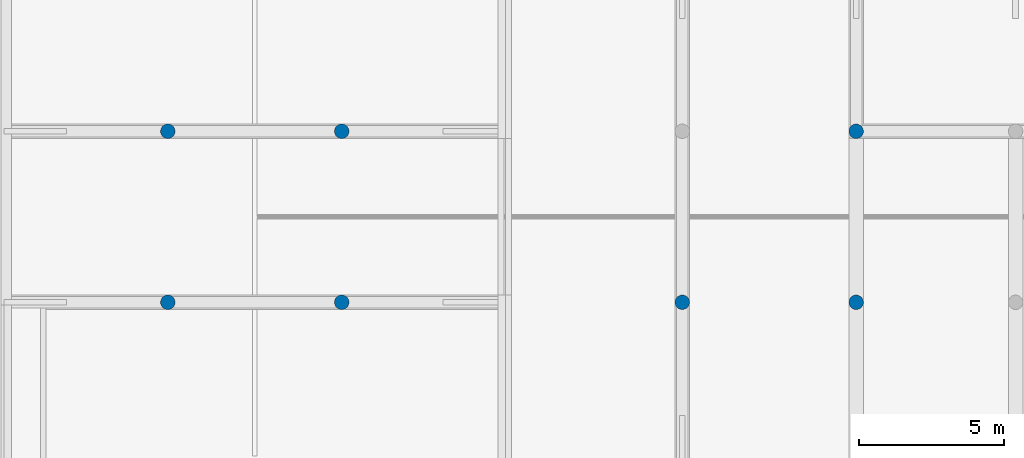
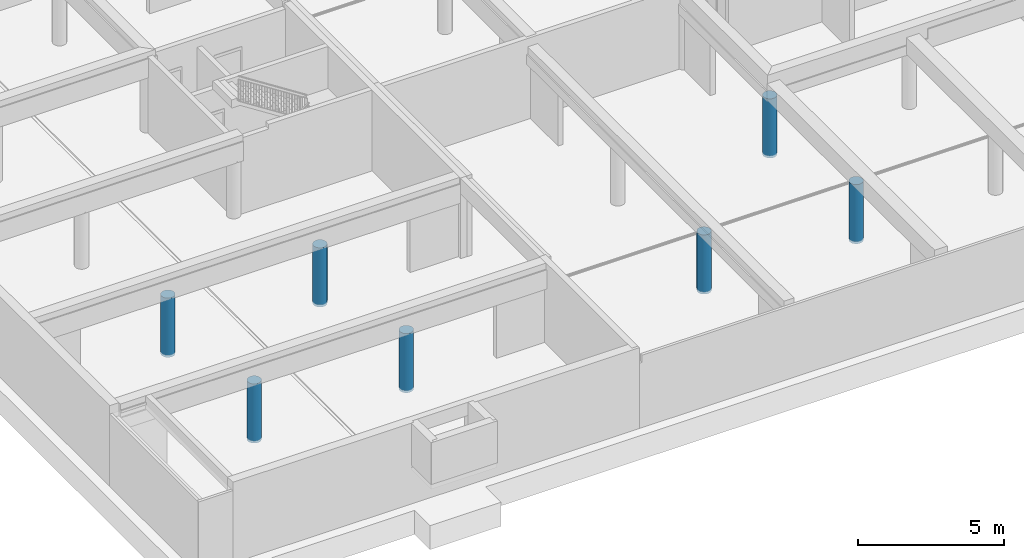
# One storey, part 1 of 25: 7 columns.
"""IFC2X3 building model written with IfcOpenShell, lengths in millimetres."""

from ifc_helpers import new_model, entity, si_unit, converted_unit, derived_unit, money_unit, direction, frame, origin_with_axes, place, context, subcontext, project, spatial, faceted_brep, material, type_object, element, save


model = new_model("IFC2X3")

# Units and contexts
model_context = context("Model", 3, precision=0.01, world=origin_with_axes(), true_north=direction((0.34421633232, 0.938890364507)))
body_context = subcontext(model_context, "Body", "Model", "MODEL_VIEW")
ifc_project = project(units=[si_unit("LENGTHUNIT", "METRE", prefix="MILLI"), si_unit("AREAUNIT", "SQUARE_METRE"), si_unit("VOLUMEUNIT", "CUBIC_METRE"), converted_unit("PLANEANGLEUNIT", "DEGREE", entity("IfcPlaneAngleMeasure", 0.0174532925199), si_unit("PLANEANGLEUNIT", "RADIAN"), dimensions=[0, 0, 0, 0, 0, 0, 0]), si_unit("SOLIDANGLEUNIT", "STERADIAN"), money_unit("USD"), converted_unit("TIMEUNIT", "Year", entity("IfcTimeMeasure", 31556926.0), si_unit("TIMEUNIT", "SECOND"), dimensions=[0, 0, 1, 0, 0, 0, 0]), si_unit("MASSUNIT", "GRAM", prefix="KILO"), si_unit("THERMODYNAMICTEMPERATUREUNIT", "DEGREE_CELSIUS"), si_unit("LUMINOUSINTENSITYUNIT", "LUMEN"), si_unit("ENERGYUNIT", "JOULE", prefix="MEGA"), derived_unit("THERMALCONDUCTANCEUNIT", [(si_unit("POWERUNIT", "WATT"), 1), (si_unit("LENGTHUNIT", "METRE"), -1), (si_unit("THERMODYNAMICTEMPERATUREUNIT", "KELVIN"), -1)]), derived_unit("SPECIFICHEATCAPACITYUNIT", [(si_unit("ENERGYUNIT", "JOULE"), 1), (si_unit("MASSUNIT", "GRAM", prefix="KILO"), -1), (si_unit("THERMODYNAMICTEMPERATUREUNIT", "KELVIN"), -1)]), derived_unit("MASSDENSITYUNIT", [(si_unit("MASSUNIT", "GRAM", prefix="KILO"), 1), (si_unit("VOLUMEUNIT", "CUBIC_METRE"), -1)])], contexts=[model_context])

# Site, building, storey
site_placement = place(None, origin_with_axes())
site = spatial("IfcSite", under=ifc_project, at=site_placement, Name="USTRONIE MORSKIE", CompositionType="ELEMENT")
building_placement = place(site_placement, origin_with_axes())
building = spatial("IfcBuilding", under=site, at=building_placement, Name="Budynek", CompositionType="ELEMENT")
storey_placement = place(building_placement, frame((0.0, 0.0, -3600.0), z_axis=(0.0, 0.0, 1.0), x_axis=(1.0, 0.0, 0.0)))
storey = spatial("IfcBuildingStorey", under=building, at=storey_placement, Name="GARAZ", CompositionType="ELEMENT", Elevation=-3600.0)

# Columns
ifc_material = material(Name="Beton konstrukcyjny 01")
column_type = type_object("IfcColumnType", Name="Beton konstrukcyjny 01 D500", PredefinedType="NOTDEFINED")
column_1_placement = place(storey_placement, frame((355567.920919, 715101.199036, -100.0), z_axis=(0.0, 0.0, 1.0), x_axis=(1.0, 0.0, 0.0)))
element("IfcColumn", 1, at=column_1_placement, inside=storey, type_object=column_type, material=ifc_material, Name="S1", context=body_context, shape_type="Brep", body=[
    faceted_brep([(-250.0, 0.0, 2470.00030619), (-250.0, 0.0, 0.0), (-246.201938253, -43.4120444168, 0.0), (-246.201938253, -43.4120444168, 2470.00030619), (-246.201938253, 43.4120444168, 2470.00030619), (-246.201938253, 43.4120444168, 0.0), (-234.923155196, 85.5050358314, 0.0), (-216.506350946, 125.0, 0.0), (-191.51111078, 160.696902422, 0.0), (-160.696902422, 191.51111078, 0.0), (-125.0, 216.506350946, 0.0), (-85.5050358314, 234.923155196, 0.0), (-43.4120444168, 246.201938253, 0.0), (0.0, 250.0, 0.0), (43.4120444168, 246.201938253, 0.0), (85.5050358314, 234.923155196, 0.0), (125.0, 216.506350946, 0.0), (160.696902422, 191.51111078, 0.0), (191.51111078, 160.696902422, 0.0), (216.506350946, 125.0, 0.0), (234.923155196, 85.5050358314, 0.0), (246.201938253, 43.4120444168, 0.0), (250.0, 0.0, 0.0), (246.201938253, -43.4120444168, 0.0), (234.923155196, -85.5050358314, 0.0), (216.506350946, -125.0, 0.0), (191.51111078, -160.696902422, 0.0), (160.696902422, -191.51111078, 0.0), (125.0, -216.506350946, 0.0), (85.5050358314, -234.923155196, 0.0), (43.4120444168, -246.201938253, 0.0), (0.0, -250.0, 0.0), (-43.4120444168, -246.201938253, 0.0), (-85.5050358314, -234.923155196, 0.0), (-125.0, -216.506350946, 0.0), (-160.696902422, -191.51111078, 0.0), (-191.51111078, -160.696902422, 0.0), (-216.506350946, -125.0, 0.0), (-234.923155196, -85.5050358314, 0.0), (-234.923155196, -85.5050358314, 2470.00030619), (-216.506350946, -125.0, 2470.00030619), (-191.51111078, -160.696902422, 2470.00030619), (-160.696902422, -191.51111078, 2470.00030619), (-125.0, -216.506350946, 2470.00030619), (-85.5050358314, -234.923155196, 2470.00030619), (-43.4120444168, -246.201938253, 2470.00030619), (0.0, -250.0, 2470.00030619), (43.4120444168, -246.201938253, 2470.00030619), (85.5050358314, -234.923155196, 2470.00030619), (125.0, -216.506350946, 2470.00030619), (160.696902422, -191.51111078, 2470.00030619), (191.51111078, -160.696902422, 2470.00030619), (216.506350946, -125.0, 2470.00030619), (234.923155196, -85.5050358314, 2470.00030619), (246.201938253, -43.4120444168, 2470.00030619), (250.0, 0.0, 2470.00030619), (246.201938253, 43.4120444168, 2470.00030619), (234.923155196, 85.5050358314, 2470.00030619), (216.506350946, 125.0, 2470.00030619), (191.51111078, 160.696902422, 2470.00030619), (160.696902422, 191.51111078, 2470.00030619), (125.0, 216.506350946, 2470.00030619), (85.5050358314, 234.923155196, 2470.00030619), (43.4120444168, 246.201938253, 2470.00030619), (0.0, 250.0, 2470.00030619), (-43.4120444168, 246.201938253, 2470.00030619), (-85.5050358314, 234.923155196, 2470.00030619), (-125.0, 216.506350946, 2470.00030619), (-160.696902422, 191.51111078, 2470.00030619), (-191.51111078, 160.696902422, 2470.00030619), (-216.506350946, 125.0, 2470.00030619), (-234.923155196, 85.5050358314, 2470.00030619)], [[[0, 1, 2, 3]], [[4, 5, 1, 0]], [[2, 1, 5, 6, 7, 8, 9, 10, 11, 12, 13, 14, 15, 16, 17, 18, 19, 20, 21, 22, 23, 24, 25, 26, 27, 28, 29, 30, 31, 32, 33, 34, 35, 36, 37, 38]], [[3, 2, 38, 39]], [[4, 0, 3, 39, 40, 41, 42, 43, 44, 45, 46, 47, 48, 49, 50, 51, 52, 53, 54, 55, 56, 57, 58, 59, 60, 61, 62, 63, 64, 65, 66, 67, 68, 69, 70, 71]], [[71, 6, 5, 4]], [[70, 7, 6, 71]], [[69, 8, 7, 70]], [[68, 9, 8, 69]], [[67, 10, 9, 68]], [[66, 11, 10, 67]], [[65, 12, 11, 66]], [[64, 13, 12, 65]], [[63, 14, 13, 64]], [[62, 15, 14, 63]], [[61, 16, 15, 62]], [[60, 17, 16, 61]], [[59, 18, 17, 60]], [[58, 19, 18, 59]], [[57, 20, 19, 58]], [[56, 21, 20, 57]], [[55, 22, 21, 56]], [[54, 23, 22, 55]], [[53, 24, 23, 54]], [[52, 25, 24, 53]], [[51, 26, 25, 52]], [[50, 27, 26, 51]], [[49, 28, 27, 50]], [[48, 29, 28, 49]], [[47, 30, 29, 48]], [[46, 31, 30, 47]], [[45, 32, 31, 46]], [[44, 33, 32, 45]], [[43, 34, 33, 44]], [[42, 35, 34, 43]], [[41, 36, 35, 42]], [[40, 37, 36, 41]], [[39, 38, 37, 40]]]),
])
column_2_placement = place(storey_placement, frame((361567.920919, 721001.199036, -100.0), z_axis=(0.0, 0.0, 1.0), x_axis=(1.0, 0.0, 0.0)))
element("IfcColumn", 2, at=column_2_placement, inside=storey, type_object=column_type, material=ifc_material, Name="S1", context=body_context, shape_type="Brep", body=[
    faceted_brep([(246.216710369, 43.4146491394, 2470.00030619), (246.216710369, 43.4146491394, 0.0), (234.937250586, 85.5101661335, 0.0), (234.937250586, 85.5101661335, 2470.00030619), (250.015, 0.0, 2470.00030619), (250.015, 0.0, 0.0), (246.216710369, -43.4146491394, 0.0), (234.937250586, -85.5101661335, 0.0), (216.519341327, -125.0075, 0.0), (191.522601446, -160.706544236, 0.0), (160.706544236, -191.522601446, 0.0), (125.0075, -216.519341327, 0.0), (85.5101661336, -234.937250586, 0.0), (43.4146491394, -246.216710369, 0.0), (0.0, -250.015, 0.0), (-43.4146491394, -246.216710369, 0.0), (-85.5101661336, -234.937250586, 0.0), (-125.0075, -216.519341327, 0.0), (-160.706544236, -191.522601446, 0.0), (-191.522601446, -160.706544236, 0.0), (-216.519341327, -125.0075, 0.0), (-234.937250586, -85.5101661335, 0.0), (-246.216710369, -43.4146491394, 0.0), (-250.015, 0.0, 0.0), (-246.216710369, 43.4146491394, 0.0), (-234.937250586, 85.5101661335, 0.0), (-216.519341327, 125.0075, 0.0), (-191.522601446, 160.706544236, 0.0), (-160.706544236, 191.522601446, 0.0), (-125.0075, 216.519341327, 0.0), (-85.5101661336, 234.937250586, 0.0), (-43.4146491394, 246.216710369, 0.0), (0.0, 250.015, 0.0), (43.4146491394, 246.216710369, 0.0), (85.5101661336, 234.937250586, 0.0), (125.0075, 216.519341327, 0.0), (160.706544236, 191.522601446, 0.0), (191.522601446, 160.706544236, 0.0), (216.519341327, 125.0075, 0.0), (216.519341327, 125.0075, 2470.00030619), (191.522601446, 160.706544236, 2470.00030619), (160.706544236, 191.522601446, 2470.00030619), (125.0075, 216.519341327, 2470.00030619), (85.5101661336, 234.937250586, 2470.00030619), (43.4146491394, 246.216710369, 2470.00030619), (0.0, 250.015, 2470.00030619), (-43.4146491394, 246.216710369, 2470.00030619), (-85.5101661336, 234.937250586, 2470.00030619), (-125.0075, 216.519341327, 2470.00030619), (-160.706544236, 191.522601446, 2470.00030619), (-191.522601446, 160.706544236, 2470.00030619), (-216.519341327, 125.0075, 2470.00030619), (-234.937250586, 85.5101661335, 2470.00030619), (-246.216710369, 43.4146491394, 2470.00030619), (-250.015, 0.0, 2470.00030619), (-246.216710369, -43.4146491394, 2470.00030619), (-234.937250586, -85.5101661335, 2470.00030619), (-216.519341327, -125.0075, 2470.00030619), (-191.522601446, -160.706544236, 2470.00030619), (-160.706544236, -191.522601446, 2470.00030619), (-125.0075, -216.519341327, 2470.00030619), (-85.5101661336, -234.937250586, 2470.00030619), (-43.4146491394, -246.216710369, 2470.00030619), (0.0, -250.015, 2470.00030619), (43.4146491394, -246.216710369, 2470.00030619), (85.5101661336, -234.937250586, 2470.00030619), (125.0075, -216.519341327, 2470.00030619), (160.706544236, -191.522601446, 2470.00030619), (191.522601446, -160.706544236, 2470.00030619), (216.519341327, -125.0075, 2470.00030619), (234.937250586, -85.5101661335, 2470.00030619), (246.216710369, -43.4146491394, 2470.00030619)], [[[0, 1, 2, 3]], [[4, 5, 1, 0]], [[2, 1, 5, 6, 7, 8, 9, 10, 11, 12, 13, 14, 15, 16, 17, 18, 19, 20, 21, 22, 23, 24, 25, 26, 27, 28, 29, 30, 31, 32, 33, 34, 35, 36, 37, 38]], [[3, 2, 38, 39]], [[4, 0, 3, 39, 40, 41, 42, 43, 44, 45, 46, 47, 48, 49, 50, 51, 52, 53, 54, 55, 56, 57, 58, 59, 60, 61, 62, 63, 64, 65, 66, 67, 68, 69, 70, 71]], [[71, 6, 5, 4]], [[70, 7, 6, 71]], [[69, 8, 7, 70]], [[68, 9, 8, 69]], [[67, 10, 9, 68]], [[66, 11, 10, 67]], [[65, 12, 11, 66]], [[64, 13, 12, 65]], [[63, 14, 13, 64]], [[62, 15, 14, 63]], [[61, 16, 15, 62]], [[60, 17, 16, 61]], [[59, 18, 17, 60]], [[58, 19, 18, 59]], [[57, 20, 19, 58]], [[56, 21, 20, 57]], [[55, 22, 21, 56]], [[54, 23, 22, 55]], [[53, 24, 23, 54]], [[52, 25, 24, 53]], [[51, 26, 25, 52]], [[50, 27, 26, 51]], [[49, 28, 27, 50]], [[48, 29, 28, 49]], [[47, 30, 29, 48]], [[46, 31, 30, 47]], [[45, 32, 31, 46]], [[44, 33, 32, 45]], [[43, 34, 33, 44]], [[42, 35, 34, 43]], [[41, 36, 35, 42]], [[40, 37, 36, 41]], [[39, 38, 37, 40]]]),
])
column_3_placement = place(storey_placement, frame((373317.920919, 715101.199036, -100.0), z_axis=(0.0, 0.0, 1.0), x_axis=(0.0, 1.0, 0.0)))
element("IfcColumn", 3, at=column_3_placement, inside=storey, type_object=column_type, material=ifc_material, Name="S1", context=body_context, shape_type="Brep", body=[
    faceted_brep([(-250.0, 0.0, 2470.00030619), (-250.0, 0.0, 0.0), (-246.201938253, -43.4120444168, 0.0), (-246.201938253, -43.4120444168, 2470.00030619), (-246.201938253, 43.4120444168, 2470.00030619), (-246.201938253, 43.4120444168, 0.0), (-234.923155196, 85.5050358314, 0.0), (-216.506350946, 125.0, 0.0), (-191.51111078, 160.696902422, 0.0), (-160.696902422, 191.51111078, 0.0), (-125.0, 216.506350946, 0.0), (-85.5050358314, 234.923155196, 0.0), (-43.4120444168, 246.201938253, 0.0), (0.0, 250.0, 0.0), (43.4120444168, 246.201938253, 0.0), (85.5050358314, 234.923155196, 0.0), (125.0, 216.506350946, 0.0), (160.696902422, 191.51111078, 0.0), (191.51111078, 160.696902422, 0.0), (216.506350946, 125.0, 0.0), (234.923155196, 85.5050358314, 0.0), (246.201938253, 43.4120444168, 0.0), (250.0, 0.0, 0.0), (246.201938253, -43.4120444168, 0.0), (234.923155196, -85.5050358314, 0.0), (216.506350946, -125.0, 0.0), (191.51111078, -160.696902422, 0.0), (160.696902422, -191.51111078, 0.0), (125.0, -216.506350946, 0.0), (85.5050358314, -234.923155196, 0.0), (43.4120444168, -246.201938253, 0.0), (0.0, -250.0, 0.0), (-43.4120444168, -246.201938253, 0.0), (-85.5050358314, -234.923155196, 0.0), (-125.0, -216.506350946, 0.0), (-160.696902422, -191.51111078, 0.0), (-191.51111078, -160.696902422, 0.0), (-216.506350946, -125.0, 0.0), (-234.923155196, -85.5050358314, 0.0), (-234.923155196, -85.5050358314, 2470.00030619), (-216.506350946, -125.0, 2470.00030619), (-191.51111078, -160.696902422, 2470.00030619), (-160.696902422, -191.51111078, 2470.00030619), (-125.0, -216.506350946, 2470.00030619), (-85.5050358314, -234.923155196, 2470.00030619), (-43.4120444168, -246.201938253, 2470.00030619), (0.0, -250.0, 2470.00030619), (43.4120444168, -246.201938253, 2470.00030619), (85.5050358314, -234.923155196, 2470.00030619), (125.0, -216.506350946, 2470.00030619), (160.696902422, -191.51111078, 2470.00030619), (191.51111078, -160.696902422, 2470.00030619), (216.506350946, -125.0, 2470.00030619), (234.923155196, -85.5050358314, 2470.00030619), (246.201938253, -43.4120444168, 2470.00030619), (250.0, 0.0, 2470.00030619), (246.201938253, 43.4120444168, 2470.00030619), (234.923155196, 85.5050358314, 2470.00030619), (216.506350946, 125.0, 2470.00030619), (191.51111078, 160.696902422, 2470.00030619), (160.696902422, 191.51111078, 2470.00030619), (125.0, 216.506350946, 2470.00030619), (85.5050358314, 234.923155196, 2470.00030619), (43.4120444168, 246.201938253, 2470.00030619), (0.0, 250.0, 2470.00030619), (-43.4120444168, 246.201938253, 2470.00030619), (-85.5050358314, 234.923155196, 2470.00030619), (-125.0, 216.506350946, 2470.00030619), (-160.696902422, 191.51111078, 2470.00030619), (-191.51111078, 160.696902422, 2470.00030619), (-216.506350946, 125.0, 2470.00030619), (-234.923155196, 85.5050358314, 2470.00030619)], [[[0, 1, 2, 3]], [[4, 5, 1, 0]], [[2, 1, 5, 6, 7, 8, 9, 10, 11, 12, 13, 14, 15, 16, 17, 18, 19, 20, 21, 22, 23, 24, 25, 26, 27, 28, 29, 30, 31, 32, 33, 34, 35, 36, 37, 38]], [[3, 2, 38, 39]], [[4, 0, 3, 39, 40, 41, 42, 43, 44, 45, 46, 47, 48, 49, 50, 51, 52, 53, 54, 55, 56, 57, 58, 59, 60, 61, 62, 63, 64, 65, 66, 67, 68, 69, 70, 71]], [[71, 6, 5, 4]], [[70, 7, 6, 71]], [[69, 8, 7, 70]], [[68, 9, 8, 69]], [[67, 10, 9, 68]], [[66, 11, 10, 67]], [[65, 12, 11, 66]], [[64, 13, 12, 65]], [[63, 14, 13, 64]], [[62, 15, 14, 63]], [[61, 16, 15, 62]], [[60, 17, 16, 61]], [[59, 18, 17, 60]], [[58, 19, 18, 59]], [[57, 20, 19, 58]], [[56, 21, 20, 57]], [[55, 22, 21, 56]], [[54, 23, 22, 55]], [[53, 24, 23, 54]], [[52, 25, 24, 53]], [[51, 26, 25, 52]], [[50, 27, 26, 51]], [[49, 28, 27, 50]], [[48, 29, 28, 49]], [[47, 30, 29, 48]], [[46, 31, 30, 47]], [[45, 32, 31, 46]], [[44, 33, 32, 45]], [[43, 34, 33, 44]], [[42, 35, 34, 43]], [[41, 36, 35, 42]], [[40, 37, 36, 41]], [[39, 38, 37, 40]]]),
])
column_4_placement = place(storey_placement, frame((379317.920919, 715101.199036, -100.0), z_axis=(0.0, 0.0, 1.0), x_axis=(0.0, 1.0, 0.0)))
element("IfcColumn", 4, at=column_4_placement, inside=storey, type_object=column_type, material=ifc_material, Name="S1", context=body_context, shape_type="Brep", body=[
    faceted_brep([(-250.0, 0.0, 2470.00030619), (-250.0, 0.0, 0.0), (-246.201938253, -43.4120444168, 0.0), (-246.201938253, -43.4120444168, 2470.00030619), (-246.201938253, 43.4120444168, 2470.00030619), (-246.201938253, 43.4120444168, 0.0), (-234.923155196, 85.5050358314, 0.0), (-216.506350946, 125.0, 0.0), (-191.51111078, 160.696902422, 0.0), (-160.696902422, 191.51111078, 0.0), (-125.0, 216.506350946, 0.0), (-85.5050358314, 234.923155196, 0.0), (-43.4120444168, 246.201938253, 0.0), (0.0, 250.0, 0.0), (43.4120444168, 246.201938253, 0.0), (85.5050358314, 234.923155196, 0.0), (125.0, 216.506350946, 0.0), (160.696902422, 191.51111078, 0.0), (191.51111078, 160.696902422, 0.0), (216.506350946, 125.0, 0.0), (234.923155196, 85.5050358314, 0.0), (246.201938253, 43.4120444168, 0.0), (250.0, 0.0, 0.0), (246.201938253, -43.4120444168, 0.0), (234.923155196, -85.5050358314, 0.0), (216.506350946, -125.0, 0.0), (191.51111078, -160.696902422, 0.0), (160.696902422, -191.51111078, 0.0), (125.0, -216.506350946, 0.0), (85.5050358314, -234.923155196, 0.0), (43.4120444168, -246.201938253, 0.0), (0.0, -250.0, 0.0), (-43.4120444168, -246.201938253, 0.0), (-85.5050358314, -234.923155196, 0.0), (-125.0, -216.506350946, 0.0), (-160.696902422, -191.51111078, 0.0), (-191.51111078, -160.696902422, 0.0), (-216.506350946, -125.0, 0.0), (-234.923155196, -85.5050358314, 0.0), (-234.923155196, -85.5050358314, 2470.00030619), (-216.506350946, -125.0, 2470.00030619), (-191.51111078, -160.696902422, 2470.00030619), (-160.696902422, -191.51111078, 2470.00030619), (-125.0, -216.506350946, 2470.00030619), (-85.5050358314, -234.923155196, 2470.00030619), (-43.4120444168, -246.201938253, 2470.00030619), (0.0, -250.0, 2470.00030619), (43.4120444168, -246.201938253, 2470.00030619), (85.5050358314, -234.923155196, 2470.00030619), (125.0, -216.506350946, 2470.00030619), (160.696902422, -191.51111078, 2470.00030619), (191.51111078, -160.696902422, 2470.00030619), (216.506350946, -125.0, 2470.00030619), (234.923155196, -85.5050358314, 2470.00030619), (246.201938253, -43.4120444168, 2470.00030619), (250.0, 0.0, 2470.00030619), (246.201938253, 43.4120444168, 2470.00030619), (234.923155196, 85.5050358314, 2470.00030619), (216.506350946, 125.0, 2470.00030619), (191.51111078, 160.696902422, 2470.00030619), (160.696902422, 191.51111078, 2470.00030619), (125.0, 216.506350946, 2470.00030619), (85.5050358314, 234.923155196, 2470.00030619), (43.4120444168, 246.201938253, 2470.00030619), (0.0, 250.0, 2470.00030619), (-43.4120444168, 246.201938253, 2470.00030619), (-85.5050358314, 234.923155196, 2470.00030619), (-125.0, 216.506350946, 2470.00030619), (-160.696902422, 191.51111078, 2470.00030619), (-191.51111078, 160.696902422, 2470.00030619), (-216.506350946, 125.0, 2470.00030619), (-234.923155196, 85.5050358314, 2470.00030619)], [[[0, 1, 2, 3]], [[4, 5, 1, 0]], [[2, 1, 5, 6, 7, 8, 9, 10, 11, 12, 13, 14, 15, 16, 17, 18, 19, 20, 21, 22, 23, 24, 25, 26, 27, 28, 29, 30, 31, 32, 33, 34, 35, 36, 37, 38]], [[3, 2, 38, 39]], [[4, 0, 3, 39, 40, 41, 42, 43, 44, 45, 46, 47, 48, 49, 50, 51, 52, 53, 54, 55, 56, 57, 58, 59, 60, 61, 62, 63, 64, 65, 66, 67, 68, 69, 70, 71]], [[71, 6, 5, 4]], [[70, 7, 6, 71]], [[69, 8, 7, 70]], [[68, 9, 8, 69]], [[67, 10, 9, 68]], [[66, 11, 10, 67]], [[65, 12, 11, 66]], [[64, 13, 12, 65]], [[63, 14, 13, 64]], [[62, 15, 14, 63]], [[61, 16, 15, 62]], [[60, 17, 16, 61]], [[59, 18, 17, 60]], [[58, 19, 18, 59]], [[57, 20, 19, 58]], [[56, 21, 20, 57]], [[55, 22, 21, 56]], [[54, 23, 22, 55]], [[53, 24, 23, 54]], [[52, 25, 24, 53]], [[51, 26, 25, 52]], [[50, 27, 26, 51]], [[49, 28, 27, 50]], [[48, 29, 28, 49]], [[47, 30, 29, 48]], [[46, 31, 30, 47]], [[45, 32, 31, 46]], [[44, 33, 32, 45]], [[43, 34, 33, 44]], [[42, 35, 34, 43]], [[41, 36, 35, 42]], [[40, 37, 36, 41]], [[39, 38, 37, 40]]]),
])
column_5_placement = place(storey_placement, frame((379317.920919, 721001.199036, -100.0), z_axis=(0.0, 0.0, 1.0), x_axis=(1.0, 0.0, 0.0)))
element("IfcColumn", 5, at=column_5_placement, inside=storey, type_object=column_type, material=ifc_material, Name="S1", context=body_context, shape_type="Brep", body=[
    faceted_brep([(-250.015, 0.0, 2470.00030619), (-250.015, 0.0, 0.0), (-246.216710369, -43.4146491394, 0.0), (-246.216710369, -43.4146491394, 2470.00030619), (-246.216710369, 43.4146491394, 2470.00030619), (-246.216710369, 43.4146491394, 0.0), (-234.937250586, 85.5101661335, 0.0), (-216.519341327, 125.0075, 0.0), (-191.522601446, 160.706544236, 0.0), (-160.706544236, 191.522601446, 0.0), (-125.0075, 216.519341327, 0.0), (-85.5101661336, 234.937250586, 0.0), (-43.4146491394, 246.216710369, 0.0), (0.0, 250.015, 0.0), (43.4146491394, 246.216710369, 0.0), (85.5101661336, 234.937250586, 0.0), (125.0075, 216.519341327, 0.0), (160.706544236, 191.522601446, 0.0), (191.522601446, 160.706544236, 0.0), (216.519341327, 125.0075, 0.0), (234.937250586, 85.5101661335, 0.0), (246.216710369, 43.4146491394, 0.0), (250.015, 0.0, 0.0), (246.216710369, -43.4146491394, 0.0), (234.937250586, -85.5101661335, 0.0), (216.519341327, -125.0075, 0.0), (191.522601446, -160.706544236, 0.0), (160.706544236, -191.522601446, 0.0), (125.0075, -216.519341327, 0.0), (85.5101661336, -234.937250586, 0.0), (43.4146491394, -246.216710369, 0.0), (0.0, -250.015, 0.0), (-43.4146491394, -246.216710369, 0.0), (-85.5101661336, -234.937250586, 0.0), (-125.0075, -216.519341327, 0.0), (-160.706544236, -191.522601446, 0.0), (-191.522601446, -160.706544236, 0.0), (-216.519341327, -125.0075, 0.0), (-234.937250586, -85.5101661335, 0.0), (-234.937250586, -85.5101661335, 2470.00030619), (-216.519341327, -125.0075, 2470.00030619), (-191.522601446, -160.706544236, 2470.00030619), (-160.706544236, -191.522601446, 2470.00030619), (-125.0075, -216.519341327, 2470.00030619), (-85.5101661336, -234.937250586, 2470.00030619), (-43.4146491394, -246.216710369, 2470.00030619), (0.0, -250.015, 2470.00030619), (43.4146491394, -246.216710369, 2470.00030619), (85.5101661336, -234.937250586, 2470.00030619), (125.0075, -216.519341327, 2470.00030619), (160.706544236, -191.522601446, 2470.00030619), (191.522601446, -160.706544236, 2470.00030619), (216.519341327, -125.0075, 2470.00030619), (234.937250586, -85.5101661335, 2470.00030619), (246.216710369, -43.4146491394, 2470.00030619), (250.015, 0.0, 2470.00030619), (246.216710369, 43.4146491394, 2470.00030619), (234.937250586, 85.5101661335, 2470.00030619), (216.519341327, 125.0075, 2470.00030619), (191.522601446, 160.706544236, 2470.00030619), (160.706544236, 191.522601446, 2470.00030619), (125.0075, 216.519341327, 2470.00030619), (85.5101661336, 234.937250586, 2470.00030619), (43.4146491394, 246.216710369, 2470.00030619), (0.0, 250.015, 2470.00030619), (-43.4146491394, 246.216710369, 2470.00030619), (-85.5101661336, 234.937250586, 2470.00030619), (-125.0075, 216.519341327, 2470.00030619), (-160.706544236, 191.522601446, 2470.00030619), (-191.522601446, 160.706544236, 2470.00030619), (-216.519341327, 125.0075, 2470.00030619), (-234.937250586, 85.5101661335, 2470.00030619)], [[[0, 1, 2, 3]], [[4, 5, 1, 0]], [[2, 1, 5, 6, 7, 8, 9, 10, 11, 12, 13, 14, 15, 16, 17, 18, 19, 20, 21, 22, 23, 24, 25, 26, 27, 28, 29, 30, 31, 32, 33, 34, 35, 36, 37, 38]], [[3, 2, 38, 39]], [[4, 0, 3, 39, 40, 41, 42, 43, 44, 45, 46, 47, 48, 49, 50, 51, 52, 53, 54, 55, 56, 57, 58, 59, 60, 61, 62, 63, 64, 65, 66, 67, 68, 69, 70, 71]], [[71, 6, 5, 4]], [[70, 7, 6, 71]], [[69, 8, 7, 70]], [[68, 9, 8, 69]], [[67, 10, 9, 68]], [[66, 11, 10, 67]], [[65, 12, 11, 66]], [[64, 13, 12, 65]], [[63, 14, 13, 64]], [[62, 15, 14, 63]], [[61, 16, 15, 62]], [[60, 17, 16, 61]], [[59, 18, 17, 60]], [[58, 19, 18, 59]], [[57, 20, 19, 58]], [[56, 21, 20, 57]], [[55, 22, 21, 56]], [[54, 23, 22, 55]], [[53, 24, 23, 54]], [[52, 25, 24, 53]], [[51, 26, 25, 52]], [[50, 27, 26, 51]], [[49, 28, 27, 50]], [[48, 29, 28, 49]], [[47, 30, 29, 48]], [[46, 31, 30, 47]], [[45, 32, 31, 46]], [[44, 33, 32, 45]], [[43, 34, 33, 44]], [[42, 35, 34, 43]], [[41, 36, 35, 42]], [[40, 37, 36, 41]], [[39, 38, 37, 40]]]),
])
column_6_placement = place(storey_placement, frame((361567.920919, 715101.199036, -100.0), z_axis=(0.0, 0.0, 1.0), x_axis=(1.0, 0.0, 0.0)))
element("IfcColumn", 6, at=column_6_placement, inside=storey, type_object=column_type, material=ifc_material, Name="S1", context=body_context, shape_type="Brep", body=[
    faceted_brep([(246.201938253, 43.4120444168, 2470.00030619), (246.201938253, 43.4120444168, 0.0), (234.923155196, 85.5050358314, 0.0), (234.923155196, 85.5050358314, 2470.00030619), (250.0, 0.0, 2470.00030619), (250.0, 0.0, 0.0), (246.201938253, -43.4120444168, 0.0), (234.923155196, -85.5050358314, 0.0), (216.506350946, -125.0, 0.0), (191.51111078, -160.696902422, 0.0), (160.696902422, -191.51111078, 0.0), (125.0, -216.506350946, 0.0), (85.5050358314, -234.923155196, 0.0), (43.4120444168, -246.201938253, 0.0), (0.0, -250.0, 0.0), (-43.4120444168, -246.201938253, 0.0), (-85.5050358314, -234.923155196, 0.0), (-125.0, -216.506350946, 0.0), (-160.696902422, -191.51111078, 0.0), (-191.51111078, -160.696902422, 0.0), (-216.506350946, -125.0, 0.0), (-234.923155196, -85.5050358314, 0.0), (-246.201938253, -43.4120444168, 0.0), (-250.0, 0.0, 0.0), (-246.201938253, 43.4120444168, 0.0), (-234.923155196, 85.5050358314, 0.0), (-216.506350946, 125.0, 0.0), (-191.51111078, 160.696902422, 0.0), (-160.696902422, 191.51111078, 0.0), (-125.0, 216.506350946, 0.0), (-85.5050358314, 234.923155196, 0.0), (-43.4120444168, 246.201938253, 0.0), (0.0, 250.0, 0.0), (43.4120444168, 246.201938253, 0.0), (85.5050358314, 234.923155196, 0.0), (125.0, 216.506350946, 0.0), (160.696902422, 191.51111078, 0.0), (191.51111078, 160.696902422, 0.0), (216.506350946, 125.0, 0.0), (216.506350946, 125.0, 2470.00030619), (191.51111078, 160.696902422, 2470.00030619), (160.696902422, 191.51111078, 2470.00030619), (125.0, 216.506350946, 2470.00030619), (85.5050358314, 234.923155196, 2470.00030619), (43.4120444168, 246.201938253, 2470.00030619), (0.0, 250.0, 2470.00030619), (-43.4120444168, 246.201938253, 2470.00030619), (-85.5050358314, 234.923155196, 2470.00030619), (-125.0, 216.506350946, 2470.00030619), (-160.696902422, 191.51111078, 2470.00030619), (-191.51111078, 160.696902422, 2470.00030619), (-216.506350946, 125.0, 2470.00030619), (-234.923155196, 85.5050358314, 2470.00030619), (-246.201938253, 43.4120444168, 2470.00030619), (-250.0, 0.0, 2470.00030619), (-246.201938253, -43.4120444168, 2470.00030619), (-234.923155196, -85.5050358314, 2470.00030619), (-216.506350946, -125.0, 2470.00030619), (-191.51111078, -160.696902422, 2470.00030619), (-160.696902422, -191.51111078, 2470.00030619), (-125.0, -216.506350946, 2470.00030619), (-85.5050358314, -234.923155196, 2470.00030619), (-43.4120444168, -246.201938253, 2470.00030619), (0.0, -250.0, 2470.00030619), (43.4120444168, -246.201938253, 2470.00030619), (85.5050358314, -234.923155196, 2470.00030619), (125.0, -216.506350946, 2470.00030619), (160.696902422, -191.51111078, 2470.00030619), (191.51111078, -160.696902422, 2470.00030619), (216.506350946, -125.0, 2470.00030619), (234.923155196, -85.5050358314, 2470.00030619), (246.201938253, -43.4120444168, 2470.00030619)], [[[0, 1, 2, 3]], [[4, 5, 1, 0]], [[2, 1, 5, 6, 7, 8, 9, 10, 11, 12, 13, 14, 15, 16, 17, 18, 19, 20, 21, 22, 23, 24, 25, 26, 27, 28, 29, 30, 31, 32, 33, 34, 35, 36, 37, 38]], [[3, 2, 38, 39]], [[4, 0, 3, 39, 40, 41, 42, 43, 44, 45, 46, 47, 48, 49, 50, 51, 52, 53, 54, 55, 56, 57, 58, 59, 60, 61, 62, 63, 64, 65, 66, 67, 68, 69, 70, 71]], [[71, 6, 5, 4]], [[70, 7, 6, 71]], [[69, 8, 7, 70]], [[68, 9, 8, 69]], [[67, 10, 9, 68]], [[66, 11, 10, 67]], [[65, 12, 11, 66]], [[64, 13, 12, 65]], [[63, 14, 13, 64]], [[62, 15, 14, 63]], [[61, 16, 15, 62]], [[60, 17, 16, 61]], [[59, 18, 17, 60]], [[58, 19, 18, 59]], [[57, 20, 19, 58]], [[56, 21, 20, 57]], [[55, 22, 21, 56]], [[54, 23, 22, 55]], [[53, 24, 23, 54]], [[52, 25, 24, 53]], [[51, 26, 25, 52]], [[50, 27, 26, 51]], [[49, 28, 27, 50]], [[48, 29, 28, 49]], [[47, 30, 29, 48]], [[46, 31, 30, 47]], [[45, 32, 31, 46]], [[44, 33, 32, 45]], [[43, 34, 33, 44]], [[42, 35, 34, 43]], [[41, 36, 35, 42]], [[40, 37, 36, 41]], [[39, 38, 37, 40]]]),
])
column_7_placement = place(storey_placement, frame((355567.920919, 721001.199036, -100.0), z_axis=(0.0, 0.0, 1.0), x_axis=(1.0, 0.0, 0.0)))
element("IfcColumn", 7, at=column_7_placement, inside=storey, type_object=column_type, material=ifc_material, Name="S1", context=body_context, shape_type="Brep", body=[
    faceted_brep([(-250.015, 0.0, 2470.00030619), (-250.015, 0.0, 0.0), (-246.216710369, -43.4146491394, 0.0), (-246.216710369, -43.4146491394, 2470.00030619), (-246.216710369, 43.4146491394, 2470.00030619), (-246.216710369, 43.4146491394, 0.0), (-234.937250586, 85.5101661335, 0.0), (-216.519341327, 125.0075, 0.0), (-191.522601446, 160.706544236, 0.0), (-160.706544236, 191.522601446, 0.0), (-125.0075, 216.519341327, 0.0), (-85.5101661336, 234.937250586, 0.0), (-43.4146491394, 246.216710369, 0.0), (0.0, 250.015, 0.0), (43.4146491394, 246.216710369, 0.0), (85.5101661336, 234.937250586, 0.0), (125.0075, 216.519341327, 0.0), (160.706544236, 191.522601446, 0.0), (191.522601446, 160.706544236, 0.0), (216.519341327, 125.0075, 0.0), (234.937250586, 85.5101661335, 0.0), (246.216710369, 43.4146491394, 0.0), (250.015, 0.0, 0.0), (246.216710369, -43.4146491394, 0.0), (234.937250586, -85.5101661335, 0.0), (216.519341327, -125.0075, 0.0), (191.522601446, -160.706544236, 0.0), (160.706544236, -191.522601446, 0.0), (125.0075, -216.519341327, 0.0), (85.5101661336, -234.937250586, 0.0), (43.4146491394, -246.216710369, 0.0), (0.0, -250.015, 0.0), (-43.4146491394, -246.216710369, 0.0), (-85.5101661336, -234.937250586, 0.0), (-125.0075, -216.519341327, 0.0), (-160.706544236, -191.522601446, 0.0), (-191.522601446, -160.706544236, 0.0), (-216.519341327, -125.0075, 0.0), (-234.937250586, -85.5101661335, 0.0), (-234.937250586, -85.5101661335, 2470.00030619), (-216.519341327, -125.0075, 2470.00030619), (-191.522601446, -160.706544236, 2470.00030619), (-160.706544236, -191.522601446, 2470.00030619), (-125.0075, -216.519341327, 2470.00030619), (-85.5101661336, -234.937250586, 2470.00030619), (-43.4146491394, -246.216710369, 2470.00030619), (0.0, -250.015, 2470.00030619), (43.4146491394, -246.216710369, 2470.00030619), (85.5101661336, -234.937250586, 2470.00030619), (125.0075, -216.519341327, 2470.00030619), (160.706544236, -191.522601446, 2470.00030619), (191.522601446, -160.706544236, 2470.00030619), (216.519341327, -125.0075, 2470.00030619), (234.937250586, -85.5101661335, 2470.00030619), (246.216710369, -43.4146491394, 2470.00030619), (250.015, 0.0, 2470.00030619), (246.216710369, 43.4146491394, 2470.00030619), (234.937250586, 85.5101661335, 2470.00030619), (216.519341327, 125.0075, 2470.00030619), (191.522601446, 160.706544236, 2470.00030619), (160.706544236, 191.522601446, 2470.00030619), (125.0075, 216.519341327, 2470.00030619), (85.5101661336, 234.937250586, 2470.00030619), (43.4146491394, 246.216710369, 2470.00030619), (0.0, 250.015, 2470.00030619), (-43.4146491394, 246.216710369, 2470.00030619), (-85.5101661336, 234.937250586, 2470.00030619), (-125.0075, 216.519341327, 2470.00030619), (-160.706544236, 191.522601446, 2470.00030619), (-191.522601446, 160.706544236, 2470.00030619), (-216.519341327, 125.0075, 2470.00030619), (-234.937250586, 85.5101661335, 2470.00030619)], [[[0, 1, 2, 3]], [[4, 5, 1, 0]], [[2, 1, 5, 6, 7, 8, 9, 10, 11, 12, 13, 14, 15, 16, 17, 18, 19, 20, 21, 22, 23, 24, 25, 26, 27, 28, 29, 30, 31, 32, 33, 34, 35, 36, 37, 38]], [[3, 2, 38, 39]], [[4, 0, 3, 39, 40, 41, 42, 43, 44, 45, 46, 47, 48, 49, 50, 51, 52, 53, 54, 55, 56, 57, 58, 59, 60, 61, 62, 63, 64, 65, 66, 67, 68, 69, 70, 71]], [[71, 6, 5, 4]], [[70, 7, 6, 71]], [[69, 8, 7, 70]], [[68, 9, 8, 69]], [[67, 10, 9, 68]], [[66, 11, 10, 67]], [[65, 12, 11, 66]], [[64, 13, 12, 65]], [[63, 14, 13, 64]], [[62, 15, 14, 63]], [[61, 16, 15, 62]], [[60, 17, 16, 61]], [[59, 18, 17, 60]], [[58, 19, 18, 59]], [[57, 20, 19, 58]], [[56, 21, 20, 57]], [[55, 22, 21, 56]], [[54, 23, 22, 55]], [[53, 24, 23, 54]], [[52, 25, 24, 53]], [[51, 26, 25, 52]], [[50, 27, 26, 51]], [[49, 28, 27, 50]], [[48, 29, 28, 49]], [[47, 30, 29, 48]], [[46, 31, 30, 47]], [[45, 32, 31, 46]], [[44, 33, 32, 45]], [[43, 34, 33, 44]], [[42, 35, 34, 43]], [[41, 36, 35, 42]], [[40, 37, 36, 41]], [[39, 38, 37, 40]]]),
])

save(model, "model.ifc")
